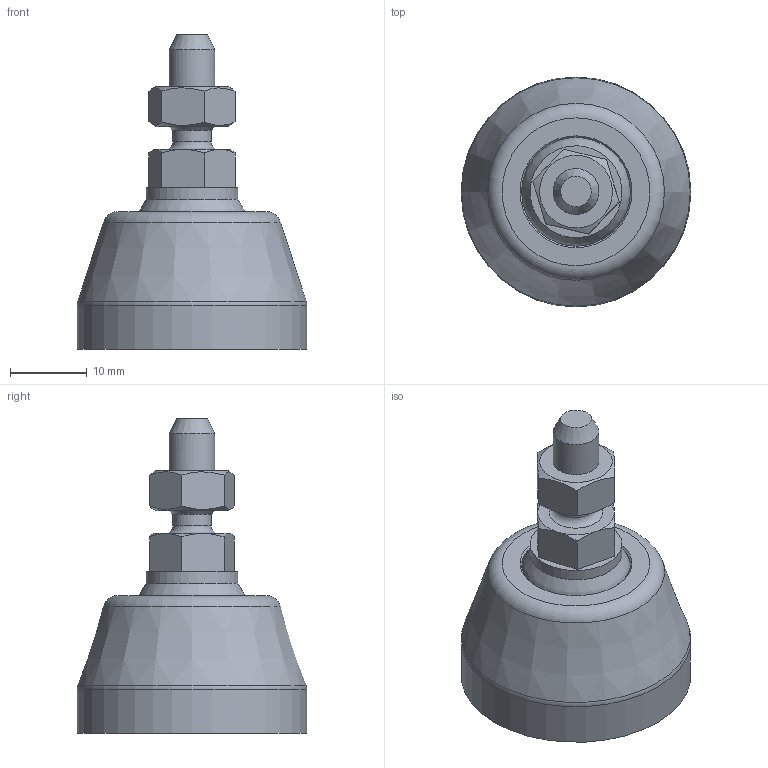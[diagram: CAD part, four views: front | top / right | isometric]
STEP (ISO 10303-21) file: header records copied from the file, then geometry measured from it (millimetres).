
FILE_DESCRIPTION(('STEP AP203'), '1');
FILE_NAME('栖闉罻', '', ('UNSPECIFIED'), ('UNSPECIFIED'), 'C3D Converter', 'C3D Toolkit', '');
FILE_SCHEMA(('CONFIG_CONTROL_DESIGN'));
Length unit declared in the file: millimetre
Products named in the file (4): A00015.1030; A00020.106015
Assembly tree (3 placements, depth 3):
  (unnamed)
    A00015.1030
    A00020.106015
      (unnamed)
Bounding box: 30 x 30 x 41.1 mm (x, y, z)
Volume: 2902.1 mm3; surface area: 9756.6 mm2
Topology: 2 solids, 3 shells, 214 faces, 579 edges, 335 vertices
Faces by surface type: plane 142, cylinder 34, torus 21, cone 15, sphere 2
Full cylindrical faces by diameter (mm): 4.917 x1, 5 x1, 6 x1, 8 x1, 8.3 x1, 12 x1, 14.2 x1, 15 x1, 20.6 x1, 30 x1
Entity records: 12205 total; most frequent: CARTESIAN_POINT 5371, ORIENTED_EDGE 1024, DIRECTION 990, EDGE_CURVE 528, AXIS2_PLACEMENT_3D 390, VERTEX_POINT 334, EDGE_LOOP 246, FACE_BOUND 226
